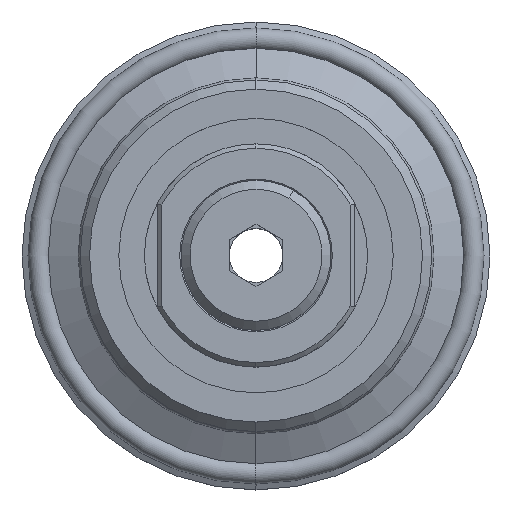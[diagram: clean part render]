
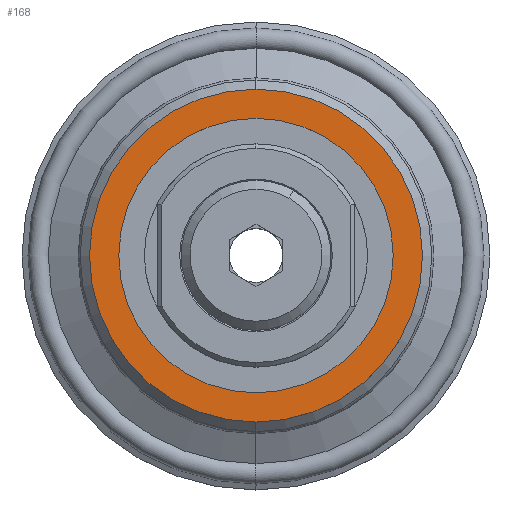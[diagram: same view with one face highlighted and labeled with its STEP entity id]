
A CAD part, top view. The second image highlights one B-rep face of the part: STEP entity #168.
In plain terms, the highlighted planar face has unit normal (0, 0, 1).
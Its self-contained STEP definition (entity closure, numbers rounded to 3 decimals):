
#168=ADVANCED_FACE('NONE',(#399,#400),#401,.F.);
#399=FACE_OUTER_BOUND('',#696,.T.);
#400=FACE_BOUND('',#697,.T.);
#401=PLANE('',#698);
#696=EDGE_LOOP('',(#1120,#1121));
#697=EDGE_LOOP('',(#1122,#1123));
#698=AXIS2_PLACEMENT_3D('',#1124,#1125,#1126);
#1120=ORIENTED_EDGE('',*,*,#1768,.F.);
#1121=ORIENTED_EDGE('',*,*,#1769,.F.);
#1122=ORIENTED_EDGE('',*,*,#1770,.F.);
#1123=ORIENTED_EDGE('',*,*,#1771,.F.);
#1124=CARTESIAN_POINT('',(18.0,0.,-9.8));
#1125=DIRECTION('',(0.,0.,-1.0));
#1126=DIRECTION('',(0.0,-1.0,0.));
#1768=EDGE_CURVE('NONE',#2102,#2103,#2104,.T.);
#1769=EDGE_CURVE('NONE',#2103,#2102,#2105,.T.);
#1770=EDGE_CURVE('NONE',#2106,#2107,#2108,.T.);
#1771=EDGE_CURVE('NONE',#2107,#2106,#2109,.T.);
#2102=VERTEX_POINT('NONE',#2542);
#2103=VERTEX_POINT('NONE',#2543);
#2104=CIRCLE('',#2544,18.5);
#2105=CIRCLE('',#2545,18.5);
#2106=VERTEX_POINT('NONE',#2546);
#2107=VERTEX_POINT('NONE',#2547);
#2108=CIRCLE('',#2548,15.25);
#2109=CIRCLE('',#2549,15.25);
#2542=CARTESIAN_POINT('',(0.,18.5,-9.8));
#2543=CARTESIAN_POINT('',(0.,-18.5,-9.8));
#2544=AXIS2_PLACEMENT_3D('',#2997,#2998,#2999);
#2545=AXIS2_PLACEMENT_3D('',#3000,#3001,#3002);
#2546=CARTESIAN_POINT('',(0.,15.25,-9.8));
#2547=CARTESIAN_POINT('',(0.,-15.25,-9.8));
#2548=AXIS2_PLACEMENT_3D('',#3003,#3004,#3005);
#2549=AXIS2_PLACEMENT_3D('',#3006,#3007,#3008);
#2997=CARTESIAN_POINT('',(0.,0.,-9.8));
#2998=DIRECTION('',(0.,0.,-1.0));
#2999=DIRECTION('',(0.,-1.0,0.0));
#3000=CARTESIAN_POINT('',(0.,0.,-9.8));
#3001=DIRECTION('',(0.,0.,-1.0));
#3002=DIRECTION('',(0.,-1.0,0.0));
#3003=CARTESIAN_POINT('',(0.,0.,-9.8));
#3004=DIRECTION('',(0.,0.,1.0));
#3005=DIRECTION('',(0.,1.0,0.0));
#3006=CARTESIAN_POINT('',(0.,0.,-9.8));
#3007=DIRECTION('',(0.,0.,1.0));
#3008=DIRECTION('',(0.,1.0,0.0));
